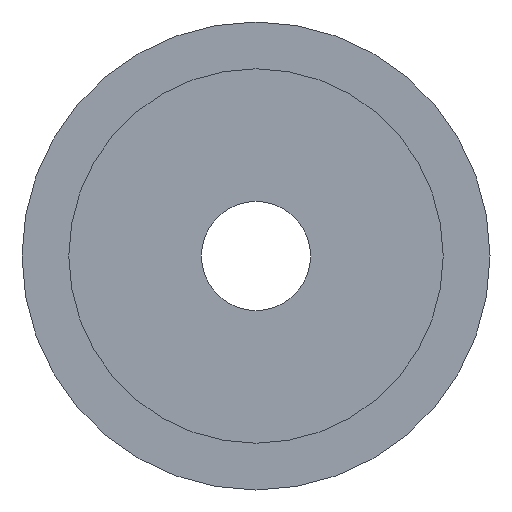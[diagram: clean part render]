
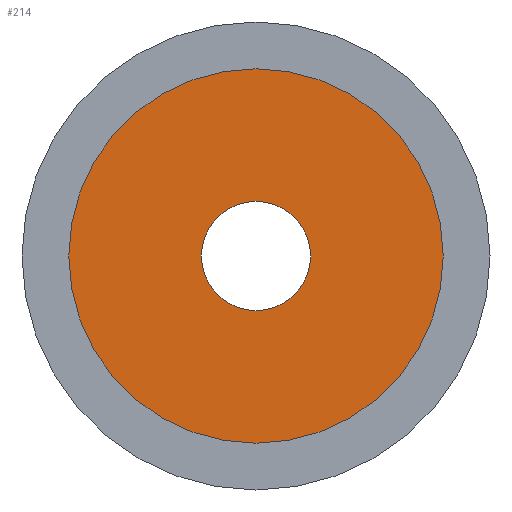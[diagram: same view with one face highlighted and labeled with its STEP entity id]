
A CAD part, left-side view. The second image highlights one B-rep face of the part: STEP entity #214.
In plain terms, the highlighted planar face has unit normal (-1, 0, 0).
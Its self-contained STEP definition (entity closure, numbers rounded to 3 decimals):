
#86 = VERTEX_POINT ( 'NONE', #199 ) ;
#87 = EDGE_CURVE ( 'NONE', #121, #86, #277, .T. ) ;
#121 = VERTEX_POINT ( 'NONE', #512 ) ;
#144 = EDGE_LOOP ( 'NONE', ( #193, #183 ) ) ;
#149 = EDGE_CURVE ( 'NONE', #86, #121, #444, .T. ) ;
#165 = VERTEX_POINT ( 'NONE', #352 ) ;
#167 = EDGE_CURVE ( 'NONE', #165, #168, #320, .T. ) ;
#168 = VERTEX_POINT ( 'NONE', #315 ) ;
#183 = ORIENTED_EDGE ( 'NONE', *, *, #167, .F. ) ;
#187 = ORIENTED_EDGE ( 'NONE', *, *, #149, .T. ) ;
#192 = ORIENTED_EDGE ( 'NONE', *, *, #87, .T. ) ;
#193 = ORIENTED_EDGE ( 'NONE', *, *, #216, .F. ) ;
#199 = CARTESIAN_POINT ( 'NONE',  ( 0., 0., -3.5 ) ) ;
#214 = ADVANCED_FACE ( 'NONE', ( #327, #326 ), #325, .F. ) ;
#216 = EDGE_CURVE ( 'NONE', #168, #165, #417, .T. ) ;
#267 = EDGE_LOOP ( 'NONE', ( #192, #187 ) ) ;
#269 = DIRECTION ( 'NONE',  ( 0., 0., -1. ) ) ;
#270 = DIRECTION ( 'NONE',  ( 1., 0., 0. ) ) ;
#271 = CARTESIAN_POINT ( 'NONE',  ( 0., 0., 0. ) ) ;
#276 = AXIS2_PLACEMENT_3D ( 'NONE', #271, #270, #269 ) ;
#277 = CIRCLE ( 'NONE', #276, 3.5 ) ;
#315 = CARTESIAN_POINT ( 'NONE',  ( 0., 0., 12. ) ) ;
#316 = DIRECTION ( 'NONE',  ( 0., 0., -1. ) ) ;
#317 = DIRECTION ( 'NONE',  ( 1., 0., 0. ) ) ;
#318 = CARTESIAN_POINT ( 'NONE',  ( 0., 0., 0. ) ) ;
#319 = AXIS2_PLACEMENT_3D ( 'NONE', #318, #317, #316 ) ;
#320 = CIRCLE ( 'NONE', #319, 12. ) ;
#321 = DIRECTION ( 'NONE',  ( 0., 0., -1. ) ) ;
#322 = DIRECTION ( 'NONE',  ( 1., 0., 0. ) ) ;
#323 = CARTESIAN_POINT ( 'NONE',  ( 0., 0., 0. ) ) ;
#324 = AXIS2_PLACEMENT_3D ( 'NONE', #323, #322, #321 ) ;
#325 = PLANE ( 'NONE',  #324 ) ;
#326 = FACE_BOUND ( 'NONE', #267, .T. ) ;
#327 = FACE_OUTER_BOUND ( 'NONE', #144, .T. ) ;
#352 = CARTESIAN_POINT ( 'NONE',  ( 0., 0., -12. ) ) ;
#413 = DIRECTION ( 'NONE',  ( 0., 0., -1. ) ) ;
#414 = DIRECTION ( 'NONE',  ( 1., 0., 0. ) ) ;
#415 = CARTESIAN_POINT ( 'NONE',  ( 0., 0., 0. ) ) ;
#416 = AXIS2_PLACEMENT_3D ( 'NONE', #415, #414, #413 ) ;
#417 = CIRCLE ( 'NONE', #416, 12. ) ;
#440 = DIRECTION ( 'NONE',  ( 0., 0., -1. ) ) ;
#441 = DIRECTION ( 'NONE',  ( 1., 0., 0. ) ) ;
#442 = CARTESIAN_POINT ( 'NONE',  ( 0., 0., 0. ) ) ;
#443 = AXIS2_PLACEMENT_3D ( 'NONE', #442, #441, #440 ) ;
#444 = CIRCLE ( 'NONE', #443, 3.5 ) ;
#512 = CARTESIAN_POINT ( 'NONE',  ( 0., 0., 3.5 ) ) ;
